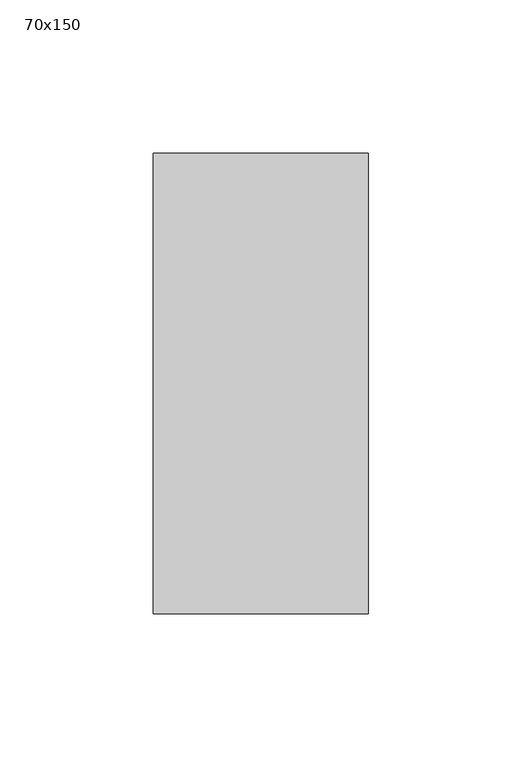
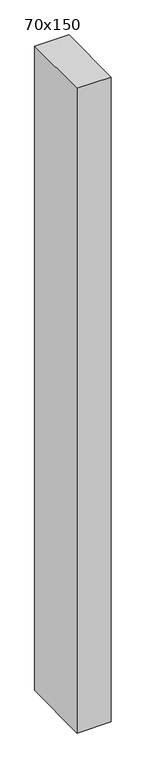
"""IFC4 building model written with IfcOpenShell, lengths in millimetres: member geometry, 長方形のマリオン : 70x150."""

import ifcopenshell
import ifcopenshell.guid

model = None  # the IFC model being written
_history = None  # IfcOwnerHistory: only IFC2X3 demands one
_inside = {}  # id of a spatial element -> (the spatial element, [elements in it])
_under = {}  # id of a project, library or spatial element -> (it, [spatial elements below it])
_declared = {}  # id of a project -> (the project, [libraries it declares])
_typed = {}  # id of a type object -> (the type object, [elements of that type])
_made_of = {}  # id of a material, layer set ... -> (it, [elements and type objects made of it])


def new_model(schema):
    """Start an empty IFC model of exactly this schema.

    Asked for "IFC4X3", IfcOpenShell would pick the latest addendum, in which some entities
    have other attributes; the version numbers below select the first issue.
    IFC2X3 requires an IfcOwnerHistory on every rooted entity: one is made here for all.
    """
    global model, _history
    if schema == "IFC4X3":
        model = ifcopenshell.file(schema_version=(4, 3, 0, 0))
    else:
        model = ifcopenshell.file(schema=schema)
    _inside.clear()
    _under.clear()
    _declared.clear()
    _typed.clear()
    _made_of.clear()
    _history = None
    if model.schema == "IFC2X3":
        org = make("IfcOrganization", Name="unknown")
        user = make(
            "IfcPersonAndOrganization",
            ThePerson=make("IfcPerson", FamilyName="unknown"),
            TheOrganization=org,
        )
        app = make(
            "IfcApplication",
            ApplicationDeveloper=org,
            Version="unknown",
            ApplicationFullName="unknown",
            ApplicationIdentifier="unknown",
        )
        _history = make(
            "IfcOwnerHistory",
            OwningUser=user,
            OwningApplication=app,
            ChangeAction="ADDED",
            CreationDate=0,
        )
    return model


def make(cls, **values):
    """One entity of the class cls with the attributes given. An attribute that is None is left unset."""
    return model.create_entity(
        cls, **{name: value for name, value in values.items() if value is not None}
    )


def rooted(cls, **values):
    """An entity with a GlobalId (a new one), such as an element, a storey or a relation."""
    return make(cls, GlobalId=ifcopenshell.guid.new(), OwnerHistory=_history, **values)


def si_unit(unit_type, name, prefix=None):
    """IfcSIUnit, for example si_unit("LENGTHUNIT", "METRE", prefix="MILLI")."""
    return make("IfcSIUnit", UnitType=unit_type, Prefix=prefix, Name=name)


def assignment(units):
    """IfcUnitAssignment: the units of a project."""
    return None if units is None else make("IfcUnitAssignment", Units=units)


def point(xyz):
    """IfcCartesianPoint."""
    return None if xyz is None else make("IfcCartesianPoint", Coordinates=xyz)


def direction(xyz):
    """IfcDirection."""
    return None if xyz is None else make("IfcDirection", DirectionRatios=xyz)


def frame(location, z_axis=None, x_axis=None):
    """IfcAxis2Placement3D, a coordinate frame: its origin and axes. An axis left out is left unset."""
    return make(
        "IfcAxis2Placement3D",
        Location=point(location),
        Axis=direction(z_axis),
        RefDirection=direction(x_axis),
    )


def origin():
    """The frame at (0, 0, 0) with its axes left unset."""
    return frame((0.0, 0.0, 0.0))


def place(relative_to, where):
    """IfcLocalPlacement: puts the frame where relative to a parent placement (None: the world)."""
    return make(
        "IfcLocalPlacement", PlacementRelTo=relative_to, RelativePlacement=where
    )


def context(
    kind, dimensions, precision=None, world=None, true_north=None, identifier=None
):
    """IfcGeometricRepresentationContext, for example the 3D "Model" context."""
    return make(
        "IfcGeometricRepresentationContext",
        ContextIdentifier=identifier,
        ContextType=kind,
        CoordinateSpaceDimension=dimensions,
        Precision=precision,
        WorldCoordinateSystem=world,
        TrueNorth=true_north,
    )


def project(units=None, contexts=None):
    """IfcProject with its units and contexts."""
    return rooted(
        "IfcProject",
        Name="project",
        RepresentationContexts=contexts,
        UnitsInContext=assignment(units),
    )


def spatial(cls, under=None, at=None, **own):
    """A site, building, storey or space (cls), placed at a placement, below another one or the project."""
    s = rooted(cls, ObjectPlacement=at, **own)
    if under is not None:
        _under.setdefault(under.id(), (under, []))[1].append(s)
    return s


def polyline(points):
    """IfcPolyline through the points."""
    return make("IfcPolyline", Points=[point(p) for p in points])


def outline(outer, holes=None, kind="AREA"):
    """IfcArbitraryClosedProfileDef: a profile drawn as a closed curve; with holes, ...WithVoids."""
    if holes is None:
        return make("IfcArbitraryClosedProfileDef", ProfileType=kind, OuterCurve=outer)
    return make(
        "IfcArbitraryProfileDefWithVoids",
        ProfileType=kind,
        OuterCurve=outer,
        InnerCurves=holes,
    )


def extrude(swept, where, along, depth):
    """IfcExtrudedAreaSolid: the profile swept, set in the frame where, extruded along a direction by depth."""
    return make(
        "IfcExtrudedAreaSolid",
        SweptArea=swept,
        Position=where,
        ExtrudedDirection=direction(along),
        Depth=depth,
    )


def shape(context_of_items, identifier, shape_type, items):
    """IfcShapeRepresentation: the items that make up one representation, for example the "Body"."""
    return make(
        "IfcShapeRepresentation",
        ContextOfItems=context_of_items,
        RepresentationIdentifier=identifier,
        RepresentationType=shape_type,
        Items=items,
    )


def source(mapping_origin, context_of_items, identifier, shape_type, items):
    """IfcRepresentationMap: a shape defined once, which mapped items show again and again."""
    return make(
        "IfcRepresentationMap",
        MappingOrigin=mapping_origin,
        MappedRepresentation=shape(context_of_items, identifier, shape_type, items),
    )


def transform(
    local_origin,
    x_axis=None,
    y_axis=None,
    z_axis=None,
    scale=None,
    scale2=None,
    scale3=None,
    uniform=True,
):
    """IfcCartesianTransformationOperator3D, or its non-uniform kind. x_axis, y_axis, z_axis: its Axis1, 2, 3."""
    if uniform:
        return make(
            "IfcCartesianTransformationOperator3D",
            Axis1=direction(x_axis),
            Axis2=direction(y_axis),
            LocalOrigin=point(local_origin),
            Scale=scale,
            Axis3=direction(z_axis),
        )
    return make(
        "IfcCartesianTransformationOperator3DnonUniform",
        Axis1=direction(x_axis),
        Axis2=direction(y_axis),
        LocalOrigin=point(local_origin),
        Scale=scale,
        Axis3=direction(z_axis),
        Scale2=scale2,
        Scale3=scale3,
    )


def mapped(mapping_source, mapping_target):
    """IfcMappedItem: shows the shape of a source again, moved by a transform."""
    return make(
        "IfcMappedItem", MappingSource=mapping_source, MappingTarget=mapping_target
    )


def made_of(thing, what):
    """Note that an element or type object is made of a material, layer set ...; save() writes the relation."""
    if what is not None:
        _made_of.setdefault(what.id(), (what, []))[1].append(thing)
    return thing


def element(
    cls,
    number,
    at=None,
    inside=None,
    cuts=None,
    type_object=None,
    material=None,
    context=None,
    identifier="Body",
    shape_type=None,
    held_by="IfcProductDefinitionShape",
    body=None,
    shapes=None,
    **own,
):
    """One element of the class cls, such as IfcWall. Its Tag is "e" and its number.

    at: its placement. inside: the storey or other place that contains it. cuts: it is an
    opening in that element (IfcRelVoidsElement). A single representation is given by context,
    identifier, shape_type and body (its items); several are given by shapes. held_by: the class
    of the entity that holds the representations. save() writes the other relations.
    """
    e = rooted(cls, Tag="e%d" % number, ObjectPlacement=at, **own)
    if body is not None:
        shapes = [shape(context, identifier, shape_type, body)]
    if shapes is not None:
        e.Representation = make(held_by, Representations=shapes)
    if inside is not None:
        _inside.setdefault(inside.id(), (inside, []))[1].append(e)
    if cuts is not None:
        rooted(
            "IfcRelVoidsElement", RelatingBuildingElement=cuts, RelatedOpeningElement=e
        )
    if type_object is not None:
        _typed.setdefault(type_object.id(), (type_object, []))[1].append(e)
    return made_of(e, material)


def aggregate(whole, parts):
    """IfcRelAggregates: a whole, such as a stair, and the parts it consists of."""
    return rooted("IfcRelAggregates", RelatingObject=whole, RelatedObjects=parts)


def save(model, path):
    """Write the relations noted so far, then the file.

    IfcRelAggregates (storeys below a building ...), IfcRelContainedInSpatialStructure (elements
    in a storey), IfcRelDefinesByType, IfcRelAssociatesMaterial and IfcRelDeclares: one each for
    every whole, place, type object, material and project.
    """
    for whole, parts in _under.values():
        aggregate(whole, parts)
    for where, things in _inside.values():
        rooted(
            "IfcRelContainedInSpatialStructure",
            RelatedElements=things,
            RelatingStructure=where,
        )
    for kind, things in _typed.values():
        rooted("IfcRelDefinesByType", RelatedObjects=things, RelatingType=kind)
    for what, things in _made_of.values():
        rooted("IfcRelAssociatesMaterial", RelatedObjects=things, RelatingMaterial=what)
    for by, libraries in _declared.values():
        rooted("IfcRelDeclares", RelatingContext=by, RelatedDefinitions=libraries)
    model.write(path)


def member_70x150_37ae0d1a(model_context):
    return source(origin(), model_context, "Body", "SweptSolid", [
        extrude(outline(polyline([(-75.0, -0.1992642), (75.0, 0.1992642), (75.0, -1396.5407643), (-75.0, -1398.4967303), (-75.0, -0.1992642)])), frame((-70.0, 0.0, 0.0), z_axis=(1.0, 0.0, 0.0), x_axis=(0.0, 1.0, 0.0)), (0.0, 0.0, 1.0), 70.0),
    ])


if __name__ == "__main__":
    model = new_model("IFC4")
    model_context = context("Model", 3, world=origin())
    ifc_project = project(units=[si_unit("LENGTHUNIT", "METRE", prefix="MILLI")], contexts=[model_context])
    site = spatial("IfcSite", under=ifc_project)
    building = spatial("IfcBuilding", under=site)
    placement = place(None, origin())
    member_70x150_shape = member_70x150_37ae0d1a(model_context)
    element("IfcMember", 1, ObjectType="長方形のマリオン : 70x150", at=placement, inside=building, context=model_context, shape_type="MappedRepresentation", body=[
        mapped(member_70x150_shape, transform((0.0, 0.0, 0.0), x_axis=(1.0, 0.0, 0.0), y_axis=(0.0, 1.0, 0.0), z_axis=(0.0, 0.0, 1.0))),
    ])
    save(model, "model.ifc")
